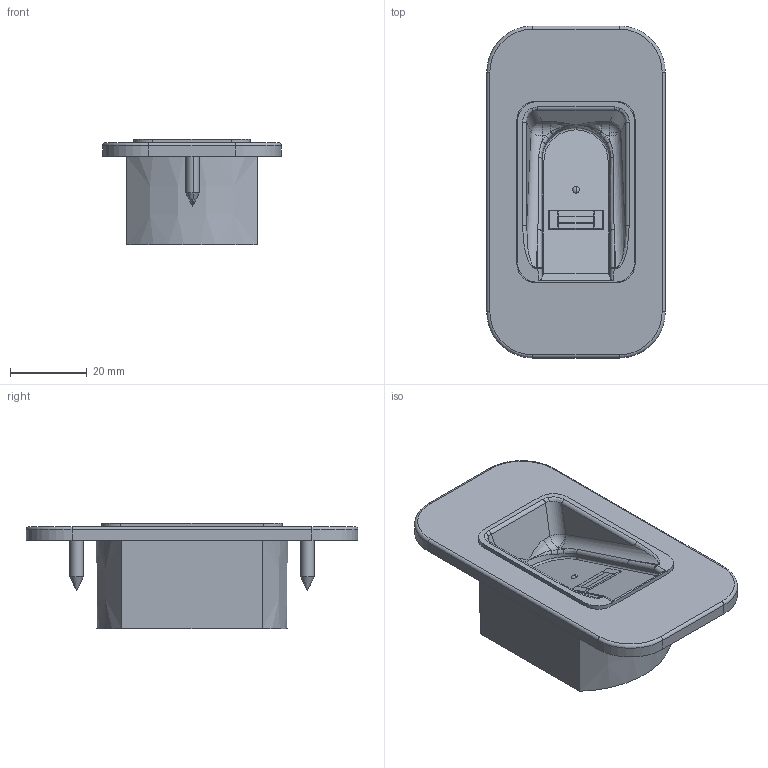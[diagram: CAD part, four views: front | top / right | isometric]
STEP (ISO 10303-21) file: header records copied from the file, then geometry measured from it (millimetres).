
FILE_DESCRIPTION (( 'STEP AP214' ), '1' );
FILE_NAME ('S11189-00001_ENTRAsys+FD.STEP', '2019-04-29T06:27:20', ( '' ), ( '' ), 'SwSTEP 2.0', 'SolidWorks 2017', '' );
FILE_SCHEMA (( 'AUTOMOTIVE_DESIGN' ));
Length unit declared in the file: millimetre
Products named in the file (16): Entrasys_Platine_komplett_05012016; 412_B_691412120002B; Stecker_Wanne; 90680_Kernmodul; PCBS10196_FPS-B_Rev2EW1; ENTRAsys SOMloq2 Main Board Rev5EW1; 90838; 90693; 90839; S11189-00001_ENTRAsys+FD; 10408V000_Abdeckrahmen_Blechtiefziehteil_CoverFrame_Sheetmetal_Deep-Drawn_ENTRAsys_FD; 50737_Blechschraube_ISO7050_A2_3,5x16; 90688; 90859; 90689; ENTRA_FD_Klebestreifen_3M93017LE
Assembly tree (21 placements, depth 5):
  S11189-00001_ENTRAsys+FD
    90838
      10408V000_Abdeckrahmen_Blechtiefziehteil_CoverFrame_Sheetmetal_Deep-Drawn_ENTRAsys_FD
      90839  x2
      ENTRA_FD_Klebestreifen_3M93017LE  x2
    90693
      90680_Kernmodul
      90688  x4
      Entrasys_Platine_komplett_05012016
        ENTRAsys SOMloq2 Main Board Rev5EW1
        PCBS10196_FPS-B_Rev2EW1
        Stecker_Wanne
          412_B_691412120002B
          90859
      90689
    50737_Blechschraube_ISO7050_A2_3,5x16  x2
Bounding box: 46.5 x 86.5 x 27.5 mm (x, y, z)
Volume: 16804.3 mm3; surface area: 39532.5 mm2
Topology: 16 solids, 209 shells, 1949 faces, 5078 edges, 3367 vertices
Faces by surface type: plane 1331, cylinder 343, bspline 130, cone 68, torus 45, sphere 32
Entity records: 76500 total; most frequent: CARTESIAN_POINT 18384, DIRECTION 8892, ORIENTED_EDGE 8695, EDGE_CURVE 4897, VECTOR 3662, LINE 3662, VERTEX_POINT 3273, AXIS2_PLACEMENT_3D 2615
